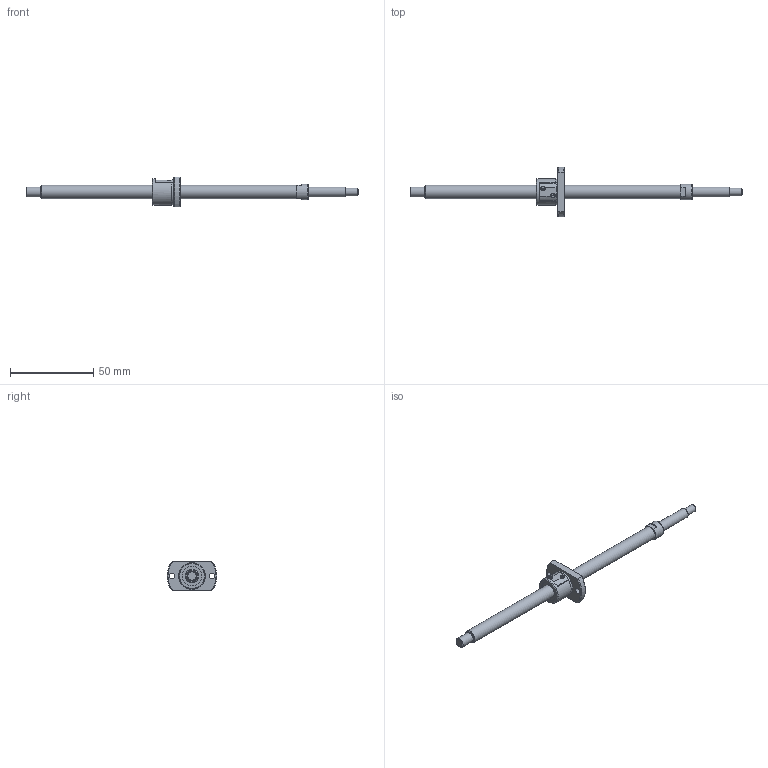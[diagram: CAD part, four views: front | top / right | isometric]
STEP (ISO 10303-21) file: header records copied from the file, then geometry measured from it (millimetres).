
FILE_DESCRIPTION(/* description */ ('STEP AP214'),/* implementation_level */ '2;1');
FILE_NAME(/* name */ 'SG0801-151R200C3C0X(67)',/* time_stamp */ '2026-07-21T16:39:23+02:00',/* author */ ('License CC BY-ND 4.0'),/* organization */ ('CADENAS'),/* preprocessor_version */ 'ST-DEVELOPER v20',/* originating_system */ 'PARTsolutions',/* authorisation */ ' ');
FILE_SCHEMA (('AUTOMOTIVE_DESIGN {1 0 10303 214 3 1 1}'));
Length unit declared in the file: millimetre
Products named in the file (3): SG0801-151R200C3C0X(67); SG0801-151R200C3C_shaft; SG0801_nut
Assembly tree (2 placements, depth 2):
  SG0801-151R200C3C0X(67)
    SG0801-151R200C3C_shaft
    SG0801_nut
Bounding box: 200 x 30 x 18 mm (x, y, z)
Volume: 12712.4 mm3; surface area: 7306.6 mm2
Topology: 2 solids, 2 shells, 77 faces, 187 edges, 122 vertices
Faces by surface type: plane 36, cylinder 26, cone 14, torus 1
Full cylindrical faces by diameter (mm): 3.4 x2, 4.5 x1, 6 x2, 8 x2, 9.5 x1, 12 x2, 15.6 x1, 16 x1
Entity records: 2183 total; most frequent: CARTESIAN_POINT 414, DIRECTION 366, ORIENTED_EDGE 310, EDGE_CURVE 155, AXIS2_PLACEMENT_3D 153, EDGE_LOOP 114, FACE_BOUND 114, VERTEX_POINT 113
